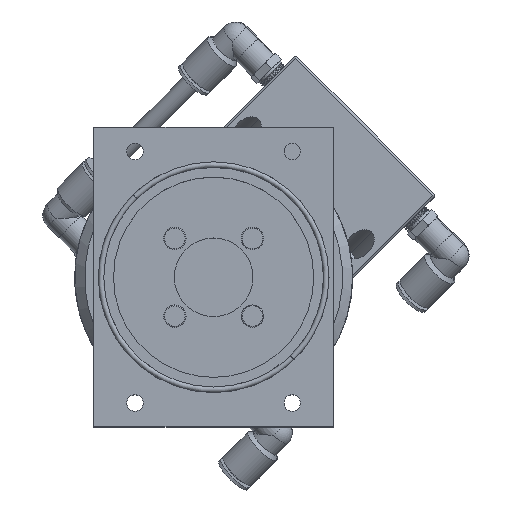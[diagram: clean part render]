
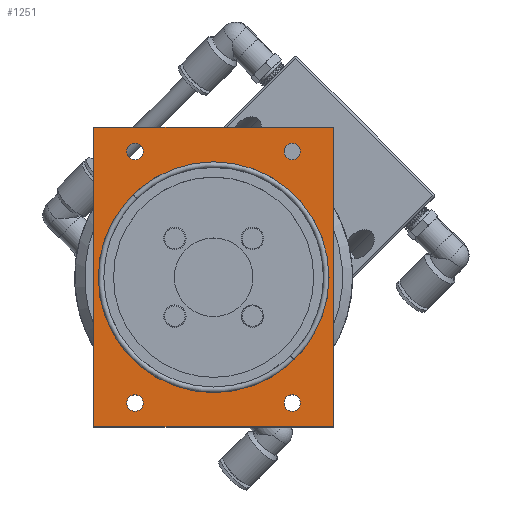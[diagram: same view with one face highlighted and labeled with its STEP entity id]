
A CAD part, top view. The second image highlights one B-rep face of the part: STEP entity #1251.
In plain terms, the highlighted planar face has unit normal (0, 0, 1).
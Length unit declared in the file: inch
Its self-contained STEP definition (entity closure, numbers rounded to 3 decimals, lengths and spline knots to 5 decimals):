
#67 = EDGE_CURVE ( 'Defeatured_129240+Defeatured_129239+Defeatured_129241+Defeatured_129243', #13770, #12180, #3764, .T. ) ;
#167 = CARTESIAN_POINT ( 'NONE',  ( 0.9845, -1.575, 0. ) ) ;
#181 = CARTESIAN_POINT ( 'NONE',  ( 0.882, -1.575, 0. ) ) ;
#455 = VERTEX_POINT ( 'NONE', #4191 ) ;
#553 = ORIENTED_EDGE ( 'NONE', *, *, #13602, .T. ) ;
#814 = CIRCLE ( 'NONE', #12596, 0.1025 ) ;
#892 = VECTOR ( 'NONE', #9161, 39.37008 ) ;
#975 = EDGE_CURVE ( 'Defeatured_129249+Defeatured_129239+Defeatured_129239+Defeatured_129239', #11865, #5503, #11003, .T. ) ;
#1055 = VECTOR ( 'NONE', #5694, 39.37008 ) ;
#1059 = DIRECTION ( 'NONE',  ( 1., 0., 0. ) ) ;
#1196 = CARTESIAN_POINT ( 'NONE',  ( -0.9845, 1.575, 0. ) ) ;
#1243 = EDGE_CURVE ( 'Defeatured_129242+Defeatured_129239+Defeatured_129243+Defeatured_129241', #455, #13477, #12322, .T. ) ;
#1251 = ADVANCED_FACE ( 'Defeatured_129239', ( #15192, #4391, #6582, #4622, #18053, #14304 ), #17067, .F. ) ;
#1278 = DIRECTION ( 'NONE',  ( 0., -1., 0. ) ) ;
#1410 = EDGE_CURVE ( 'Defeatured_129239+Defeatured_129278+Defeatured_129278+Defeatured_129278', #4405, #7659, #12524, .T. ) ;
#1802 = DIRECTION ( 'NONE',  ( 0., 0., -1. ) ) ;
#1989 = VECTOR ( 'NONE', #16150, 39.37008 ) ;
#2042 = EDGE_CURVE ( 'Defeatured_129249+Defeatured_129239+Defeatured_129239+Defeatured_129239', #5503, #11865, #8776, .T. ) ;
#2094 = ORIENTED_EDGE ( 'NONE', *, *, #2521, .T. ) ;
#2106 = DIRECTION ( 'NONE',  ( 0., 0., -1. ) ) ;
#2521 = EDGE_CURVE ( 'Defeatured_129239+Defeatured_129275+Defeatured_129275+Defeatured_129275', #6174, #10328, #814, .T. ) ;
#2630 = ORIENTED_EDGE ( 'NONE', *, *, #11536, .F. ) ;
#2957 = DIRECTION ( 'NONE',  ( 0., 0., -1. ) ) ;
#3530 = DIRECTION ( 'NONE',  ( 0., 0., -1. ) ) ;
#3600 = CARTESIAN_POINT ( 'NONE',  ( 1.087, -1.575, 0. ) ) ;
#3764 = LINE ( 'NONE', #6339, #1989 ) ;
#3842 = EDGE_LOOP ( 'NONE', ( #10786, #13956 ) ) ;
#3909 = VECTOR ( 'NONE', #1278, 39.37008 ) ;
#3935 = EDGE_LOOP ( 'NONE', ( #2630, #17111, #13558, #16086 ) ) ;
#4191 = CARTESIAN_POINT ( 'NONE',  ( 1.5, -1.875, 0. ) ) ;
#4251 = CARTESIAN_POINT ( 'NONE',  ( -1.5, 1.875, 0. ) ) ;
#4270 = CARTESIAN_POINT ( 'NONE',  ( -0.9845, -1.575, 0. ) ) ;
#4391 = FACE_BOUND ( 'NONE', #14561, .T. ) ;
#4405 = VERTEX_POINT ( 'NONE', #8661 ) ;
#4622 = FACE_BOUND ( 'NONE', #14635, .T. ) ;
#4886 = ORIENTED_EDGE ( 'NONE', *, *, #15972, .T. ) ;
#4936 = DIRECTION ( 'NONE',  ( -1., 0., 0. ) ) ;
#4964 = EDGE_CURVE ( 'Defeatured_129239+Defeatured_129278+Defeatured_129278+Defeatured_129278', #7659, #4405, #9550, .T. ) ;
#5181 = CARTESIAN_POINT ( 'NONE',  ( -0.9845, -1.575, 0. ) ) ;
#5503 = VERTEX_POINT ( 'NONE', #11346 ) ;
#5505 = DIRECTION ( 'NONE',  ( -1., 0., 0. ) ) ;
#5694 = DIRECTION ( 'NONE',  ( -1., 0., 0. ) ) ;
#5768 = ORIENTED_EDGE ( 'NONE', *, *, #17705, .T. ) ;
#5997 = CARTESIAN_POINT ( 'NONE',  ( -0.882, 1.575, 0. ) ) ;
#6168 = CARTESIAN_POINT ( 'NONE',  ( 0.9845, 1.575, 0. ) ) ;
#6174 = VERTEX_POINT ( 'NONE', #7211 ) ;
#6339 = CARTESIAN_POINT ( 'NONE',  ( 1.5, 1.875, 0. ) ) ;
#6514 = DIRECTION ( 'NONE',  ( 1., 0., 0. ) ) ;
#6559 = CARTESIAN_POINT ( 'NONE',  ( 0., 0., 0. ) ) ;
#6582 = FACE_BOUND ( 'NONE', #14755, .T. ) ;
#6653 = CIRCLE ( 'NONE', #11253, 0.1025 ) ;
#6830 = DIRECTION ( 'NONE',  ( -1., 0., 0. ) ) ;
#7010 = DIRECTION ( 'NONE',  ( 0., 0., -1. ) ) ;
#7191 = CARTESIAN_POINT ( 'NONE',  ( 1.5, -1.875, 0. ) ) ;
#7211 = CARTESIAN_POINT ( 'NONE',  ( -1.087, 1.575, 0. ) ) ;
#7551 = CIRCLE ( 'NONE', #16970, 0.1025 ) ;
#7659 = VERTEX_POINT ( 'NONE', #8560 ) ;
#7670 = DIRECTION ( 'NONE',  ( -1., 0., 0. ) ) ;
#7731 = CIRCLE ( 'NONE', #8965, 0.1025 ) ;
#7959 = CARTESIAN_POINT ( 'NONE',  ( 0., 0., 0. ) ) ;
#8241 = ORIENTED_EDGE ( 'NONE', *, *, #8923, .T. ) ;
#8264 = CARTESIAN_POINT ( 'NONE',  ( 0.9845, -1.575, 0. ) ) ;
#8331 = DIRECTION ( 'NONE',  ( 0., 0., -1. ) ) ;
#8360 = CIRCLE ( 'NONE', #10219, 0.1025 ) ;
#8560 = CARTESIAN_POINT ( 'NONE',  ( 0.882, 1.575, 0. ) ) ;
#8661 = CARTESIAN_POINT ( 'NONE',  ( 1.087, 1.575, 0. ) ) ;
#8776 = CIRCLE ( 'NONE', #11417, 1.445 ) ;
#8923 = EDGE_CURVE ( 'Defeatured_129239+Defeatured_129260+Defeatured_129260+Defeatured_129260', #13616, #16061, #6653, .T. ) ;
#8965 = AXIS2_PLACEMENT_3D ( 'NONE', #5181, #13589, #12238 ) ;
#8968 = AXIS2_PLACEMENT_3D ( 'NONE', #6168, #3530, #7670 ) ;
#9027 = DIRECTION ( 'NONE',  ( -1., 0., 0. ) ) ;
#9141 = EDGE_CURVE ( 'Defeatured_129241+Defeatured_129239+Defeatured_129242+Defeatured_129240', #13477, #13770, #13482, .T. ) ;
#9161 = DIRECTION ( 'NONE',  ( 0., 1., 0. ) ) ;
#9550 = CIRCLE ( 'NONE', #8968, 0.1025 ) ;
#10219 = AXIS2_PLACEMENT_3D ( 'NONE', #8264, #7010, #6830 ) ;
#10328 = VERTEX_POINT ( 'NONE', #5997 ) ;
#10612 = EDGE_CURVE ( 'Defeatured_129239+Defeatured_129260+Defeatured_129260+Defeatured_129260', #16061, #13616, #8360, .T. ) ;
#10786 = ORIENTED_EDGE ( 'NONE', *, *, #4964, .T. ) ;
#11003 = CIRCLE ( 'NONE', #15315, 1.445 ) ;
#11017 = ORIENTED_EDGE ( 'NONE', *, *, #975, .F. ) ;
#11018 = CARTESIAN_POINT ( 'NONE',  ( -0.882, -1.575, 0. ) ) ;
#11225 = CARTESIAN_POINT ( 'NONE',  ( 1.5, 1.875, 0. ) ) ;
#11253 = AXIS2_PLACEMENT_3D ( 'NONE', #167, #2957, #14170 ) ;
#11318 = CARTESIAN_POINT ( 'NONE',  ( -1.087, -1.575, 0. ) ) ;
#11346 = CARTESIAN_POINT ( 'NONE',  ( -1.445, 0., 0. ) ) ;
#11417 = AXIS2_PLACEMENT_3D ( 'NONE', #6559, #16307, #1059 ) ;
#11536 = EDGE_CURVE ( 'Defeatured_129243+Defeatured_129239+Defeatured_129240+Defeatured_129242', #12180, #455, #16039, .T. ) ;
#11759 = ORIENTED_EDGE ( 'NONE', *, *, #10612, .T. ) ;
#11865 = VERTEX_POINT ( 'NONE', #14729 ) ;
#11992 = DIRECTION ( 'NONE',  ( 0., 0., -1. ) ) ;
#12127 = VERTEX_POINT ( 'NONE', #11018 ) ;
#12180 = VERTEX_POINT ( 'NONE', #14081 ) ;
#12235 = CARTESIAN_POINT ( 'NONE',  ( 0.9845, 1.575, 0. ) ) ;
#12238 = DIRECTION ( 'NONE',  ( -1., 0., 0. ) ) ;
#12322 = LINE ( 'NONE', #7191, #1055 ) ;
#12524 = CIRCLE ( 'NONE', #16849, 0.1025 ) ;
#12548 = EDGE_LOOP ( 'NONE', ( #11017, #12685 ) ) ;
#12574 = DIRECTION ( 'NONE',  ( -1., 0., 0. ) ) ;
#12596 = AXIS2_PLACEMENT_3D ( 'NONE', #1196, #18224, #5505 ) ;
#12685 = ORIENTED_EDGE ( 'NONE', *, *, #2042, .F. ) ;
#13067 = AXIS2_PLACEMENT_3D ( 'NONE', #13216, #1802, #9027 ) ;
#13216 = CARTESIAN_POINT ( 'NONE',  ( 1.5, -1.875, 0. ) ) ;
#13274 = VERTEX_POINT ( 'NONE', #11318 ) ;
#13477 = VERTEX_POINT ( 'NONE', #17485 ) ;
#13482 = LINE ( 'NONE', #15040, #892 ) ;
#13558 = ORIENTED_EDGE ( 'NONE', *, *, #9141, .F. ) ;
#13589 = DIRECTION ( 'NONE',  ( 0., 0., -1. ) ) ;
#13602 = EDGE_CURVE ( 'Defeatured_129239+Defeatured_129275+Defeatured_129275+Defeatured_129275', #10328, #6174, #17994, .T. ) ;
#13616 = VERTEX_POINT ( 'NONE', #3600 ) ;
#13770 = VERTEX_POINT ( 'NONE', #4251 ) ;
#13956 = ORIENTED_EDGE ( 'NONE', *, *, #1410, .T. ) ;
#14081 = CARTESIAN_POINT ( 'NONE',  ( 1.5, 1.875, 0. ) ) ;
#14170 = DIRECTION ( 'NONE',  ( -1., 0., 0. ) ) ;
#14304 = FACE_OUTER_BOUND ( 'NONE', #3935, .T. ) ;
#14561 = EDGE_LOOP ( 'NONE', ( #11759, #8241 ) ) ;
#14635 = EDGE_LOOP ( 'NONE', ( #2094, #553 ) ) ;
#14729 = CARTESIAN_POINT ( 'NONE',  ( 1.445, 0., 0. ) ) ;
#14755 = EDGE_LOOP ( 'NONE', ( #5768, #4886 ) ) ;
#14827 = CARTESIAN_POINT ( 'NONE',  ( -0.9845, 1.575, 0. ) ) ;
#14985 = DIRECTION ( 'NONE',  ( 0., 0., 1. ) ) ;
#15040 = CARTESIAN_POINT ( 'NONE',  ( -1.5, 1.875, 0. ) ) ;
#15192 = FACE_BOUND ( 'NONE', #3842, .T. ) ;
#15315 = AXIS2_PLACEMENT_3D ( 'NONE', #7959, #14985, #6514 ) ;
#15465 = AXIS2_PLACEMENT_3D ( 'NONE', #14827, #2106, #4936 ) ;
#15972 = EDGE_CURVE ( 'Defeatured_129239+Defeatured_129257+Defeatured_129257+Defeatured_129257', #12127, #13274, #7551, .T. ) ;
#16039 = LINE ( 'NONE', #11225, #3909 ) ;
#16061 = VERTEX_POINT ( 'NONE', #181 ) ;
#16086 = ORIENTED_EDGE ( 'NONE', *, *, #1243, .F. ) ;
#16150 = DIRECTION ( 'NONE',  ( 1., 0., 0. ) ) ;
#16307 = DIRECTION ( 'NONE',  ( 0., 0., 1. ) ) ;
#16849 = AXIS2_PLACEMENT_3D ( 'NONE', #12235, #11992, #17678 ) ;
#16970 = AXIS2_PLACEMENT_3D ( 'NONE', #4270, #8331, #12574 ) ;
#17067 = PLANE ( 'NONE',  #13067 ) ;
#17111 = ORIENTED_EDGE ( 'NONE', *, *, #67, .F. ) ;
#17485 = CARTESIAN_POINT ( 'NONE',  ( -1.5, -1.875, 0. ) ) ;
#17678 = DIRECTION ( 'NONE',  ( -1., 0., 0. ) ) ;
#17705 = EDGE_CURVE ( 'Defeatured_129239+Defeatured_129257+Defeatured_129257+Defeatured_129257', #13274, #12127, #7731, .T. ) ;
#17994 = CIRCLE ( 'NONE', #15465, 0.1025 ) ;
#18053 = FACE_BOUND ( 'NONE', #12548, .T. ) ;
#18224 = DIRECTION ( 'NONE',  ( 0., 0., -1. ) ) ;
